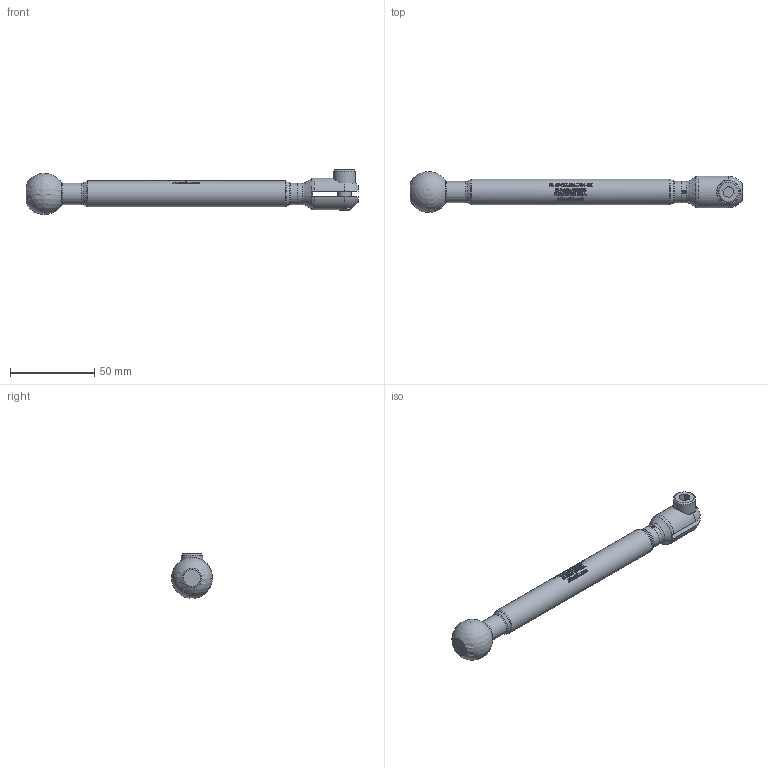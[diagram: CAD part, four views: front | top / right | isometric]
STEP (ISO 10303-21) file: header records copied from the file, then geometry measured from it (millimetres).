
FILE_DESCRIPTION(/* description */ (''),/* implementation_level */ '2;1');
FILE_NAME(/* name */ 'C:\Users\Doug Biddinger\Desktop\ADandD Website 3-28-18\PL\PL-SPOSTEXT7IN-BK.stp',/* time_stamp */ '2018-03-28T15:54:45-04:00',/* author */ ('Doug Biddinger'),/* organization */ (''),/* preprocessor_version */ 'ST-DEVELOPER v16.13',/* originating_system */ 'Autodesk Inventor 2018',/* authorisation */ '');
FILE_SCHEMA (('AUTOMOTIVE_DESIGN { 1 0 10303 214 3 1 1 }'));
Length unit declared in the file: inch
Products named in the file (5): PL-SPOST7IN-BK; 60106; 60054; 60032; 60040
Assembly tree (4 placements, depth 2):
  PL-SPOST7IN-BK
    60106
    60054
    60032
    60040
Bounding box: 197.09 x 24.28 x 26.45 mm (x, y, z)
Volume: 39430.4 mm3; surface area: 14508.5 mm2
Topology: 4 solids, 4 shells, 964 faces, 2590 edges, 1718 vertices
Faces by surface type: bspline 431, plane 403, cylinder 104, torus 12, cone 11, sphere 3
Full cylindrical faces by diameter (mm): 6.655 x1, 7.912 x1, 7.95 x1, 8 x1, 8.357 x1, 9.487 x1, 9.525 x1, 9.589 x1, 12.611 x1, 12.7 x2, 13 x1, 15.367 x1
Entity records: 40600 total; most frequent: CARTESIAN_POINT 18924, ORIENTED_EDGE 5078, DIRECTION 3223, EDGE_CURVE 2539, VERTEX_POINT 1705, LINE 1243, VECTOR 1243, EDGE_LOOP 1090
